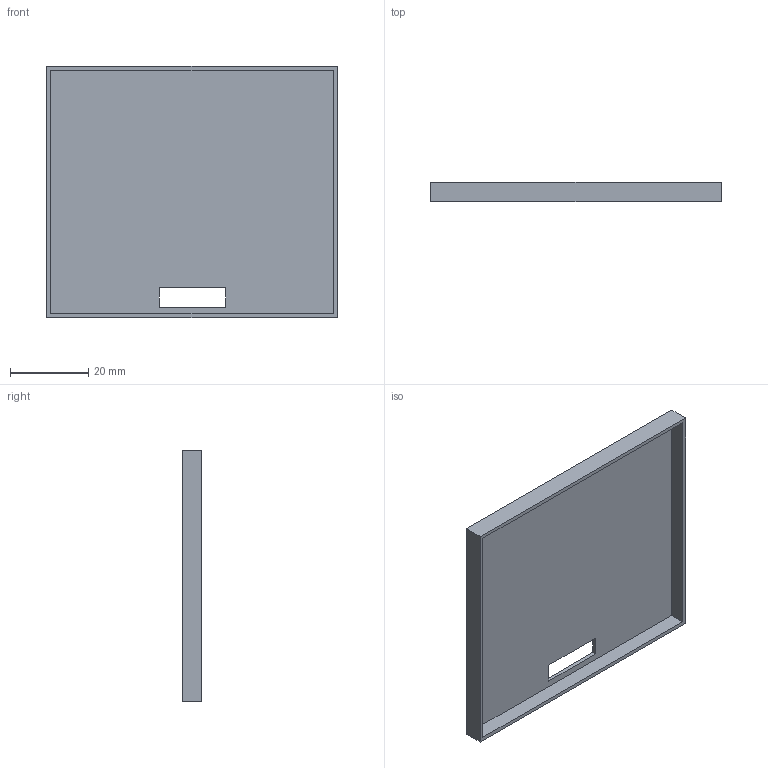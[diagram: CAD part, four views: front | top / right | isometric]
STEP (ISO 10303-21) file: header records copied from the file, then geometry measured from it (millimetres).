
FILE_DESCRIPTION (( 'STEP AP214' ), '1' );
FILE_NAME ('Tele_project_Part2.STEP', '2026-05-08T10:52:46', ( '' ), ( '' ), 'SwSTEP 2.0', 'SolidWorks 2022', '' );
FILE_SCHEMA (( 'AUTOMOTIVE_DESIGN' ));
Length unit declared in the file: centimetre
Products named in the file (1): Tele_project_Part2
Bounding box: 74.5 x 5 x 64.5 mm (x, y, z)
Volume: 5816.2 mm3; surface area: 11954.5 mm2
Topology: 1 solids, 1 shells, 15 faces, 36 edges, 24 vertices
Faces by surface type: plane 15
Entity records: 468 total; most frequent: CARTESIAN_POINT 76, ORIENTED_EDGE 72, DIRECTION 68, VECTOR 36, EDGE_CURVE 36, LINE 36, VERTEX_POINT 24, EDGE_LOOP 18
